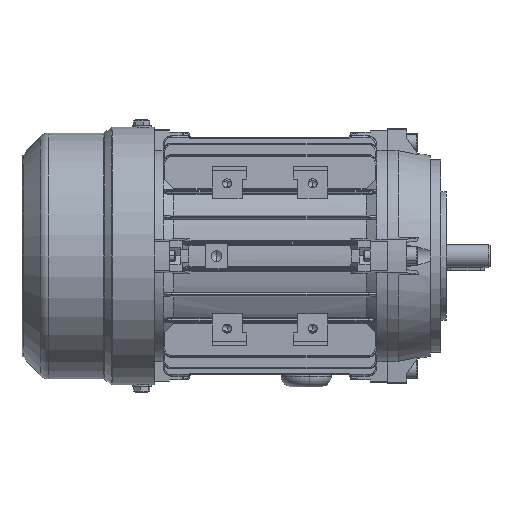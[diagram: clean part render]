
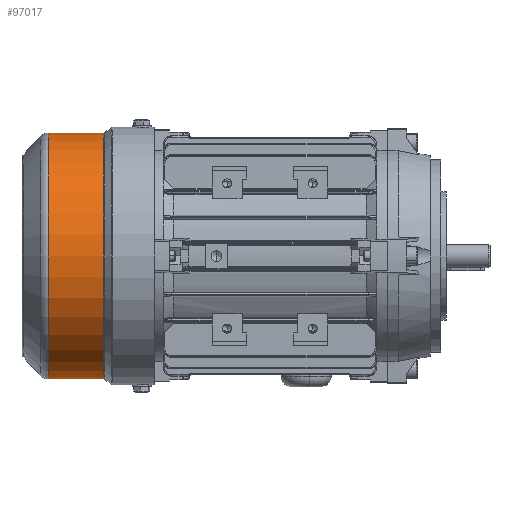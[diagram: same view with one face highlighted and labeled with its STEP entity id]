
A CAD part, front view. The second image highlights one B-rep face of the part: STEP entity #97017.
In plain terms, the highlighted cylindrical face has radius 57.5 mm (diameter 115 mm), a partial arc.
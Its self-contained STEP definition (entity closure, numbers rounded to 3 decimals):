
#2285 = EDGE_CURVE ( 'NONE', #68872, #34446, #76092, .T. ) ;
#5321 = CIRCLE ( 'NONE', #29792, 57.5 ) ;
#12280 = DIRECTION ( 'NONE',  ( 0., 0., -1. ) ) ;
#13335 = CARTESIAN_POINT ( 'NONE',  ( 0., 0., -57.5 ) ) ;
#14242 = LINE ( 'NONE', #13335, #98096 ) ;
#14529 = EDGE_CURVE ( 'NONE', #68872, #49833, #14242, .T. ) ;
#19281 = CYLINDRICAL_SURFACE ( 'NONE', #38711, 57.5 ) ;
#25767 = CARTESIAN_POINT ( 'NONE',  ( 36.149, 0., 0. ) ) ;
#26188 = ORIENTED_EDGE ( 'NONE', *, *, #28256, .T. ) ;
#26965 = CARTESIAN_POINT ( 'NONE',  ( 10.193, 0., 0. ) ) ;
#28256 = EDGE_CURVE ( 'NONE', #34446, #91878, #39377, .T. ) ;
#29792 = AXIS2_PLACEMENT_3D ( 'NONE', #26965, #95306, #12280 ) ;
#30993 = DIRECTION ( 'NONE',  ( -1., 0., 0. ) ) ;
#33719 = ORIENTED_EDGE ( 'NONE', *, *, #37683, .T. ) ;
#34446 = VERTEX_POINT ( 'NONE', #60416 ) ;
#37683 = EDGE_CURVE ( 'NONE', #91878, #49833, #5321, .T. ) ;
#38321 = FACE_OUTER_BOUND ( 'NONE', #66439, .T. ) ;
#38711 = AXIS2_PLACEMENT_3D ( 'NONE', #63581, #71213, #47479 ) ;
#39377 = LINE ( 'NONE', #53746, #63404 ) ;
#46046 = CARTESIAN_POINT ( 'NONE',  ( 10.193, 0., 57.5 ) ) ;
#47479 = DIRECTION ( 'NONE',  ( 0., 0., 1. ) ) ;
#49833 = VERTEX_POINT ( 'NONE', #50219 ) ;
#50219 = CARTESIAN_POINT ( 'NONE',  ( 10.193, 0., -57.5 ) ) ;
#51400 = DIRECTION ( 'NONE',  ( -1., 0., 0. ) ) ;
#53746 = CARTESIAN_POINT ( 'NONE',  ( 0., 0., 57.5 ) ) ;
#54307 = ORIENTED_EDGE ( 'NONE', *, *, #2285, .T. ) ;
#60416 = CARTESIAN_POINT ( 'NONE',  ( 36.149, 0., 57.5 ) ) ;
#61466 = CARTESIAN_POINT ( 'NONE',  ( 36.149, 0., -57.5 ) ) ;
#63404 = VECTOR ( 'NONE', #30993, 1000. ) ;
#63581 = CARTESIAN_POINT ( 'NONE',  ( 0., 0., 0. ) ) ;
#66439 = EDGE_LOOP ( 'NONE', ( #74164, #54307, #26188, #33719 ) ) ;
#68872 = VERTEX_POINT ( 'NONE', #61466 ) ;
#71213 = DIRECTION ( 'NONE',  ( -1., 0., 0. ) ) ;
#74164 = ORIENTED_EDGE ( 'NONE', *, *, #14529, .F. ) ;
#76092 = CIRCLE ( 'NONE', #86157, 57.5 ) ;
#79673 = DIRECTION ( 'NONE',  ( -1., 0., 0. ) ) ;
#86157 = AXIS2_PLACEMENT_3D ( 'NONE', #25767, #79673, #86631 ) ;
#86631 = DIRECTION ( 'NONE',  ( 0., 0., 1. ) ) ;
#91878 = VERTEX_POINT ( 'NONE', #46046 ) ;
#95306 = DIRECTION ( 'NONE',  ( 1., 0., 0. ) ) ;
#97017 = ADVANCED_FACE ( 'NONE', ( #38321 ), #19281, .T. ) ;
#98096 = VECTOR ( 'NONE', #51400, 1000. ) ;
